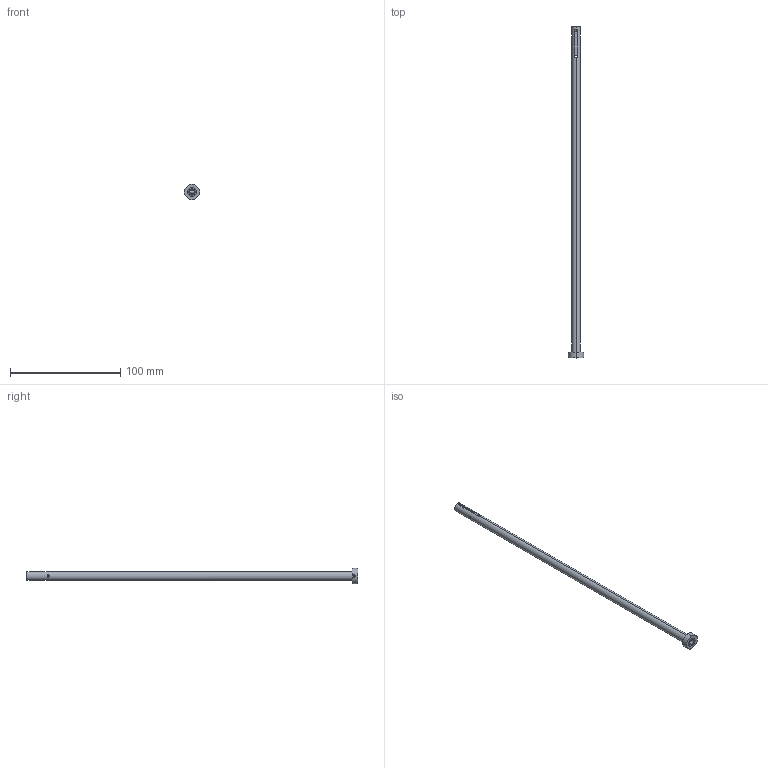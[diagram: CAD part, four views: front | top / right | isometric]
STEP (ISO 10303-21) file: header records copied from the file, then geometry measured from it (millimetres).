
FILE_DESCRIPTION (( 'STEP AP203' ), '1' );
FILE_NAME ('SGDE-808x300.STEP', '2017-01-10T15:46:09', ( 'Balzi' ), ( '' ), 'SwSTEP 2.0', 'SolidWorks 2016', '' );
FILE_SCHEMA (( 'CONFIG_CONTROL_DESIGN' ));
Length unit declared in the file: millimetre
Products named in the file (1): SGDE-808x300
Bounding box: 14 x 300.8 x 14 mm (x, y, z)
Volume: 9629.1 mm3; surface area: 13438.5 mm2
Topology: 1 solids, 1 shells, 84 faces, 234 edges, 154 vertices
Faces by surface type: cylinder 48, plane 32, cone 4
Entity records: 3313 total; most frequent: CARTESIAN_POINT 1077, ORIENTED_EDGE 468, DIRECTION 422, EDGE_CURVE 234, AXIS2_PLACEMENT_3D 155, VERTEX_POINT 154, VECTOR 112, LINE 112
